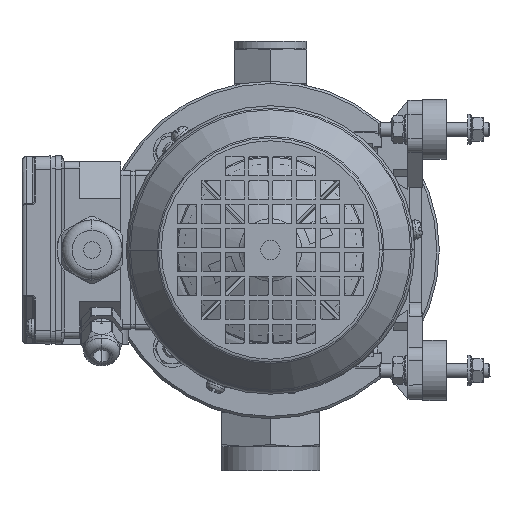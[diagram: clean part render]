
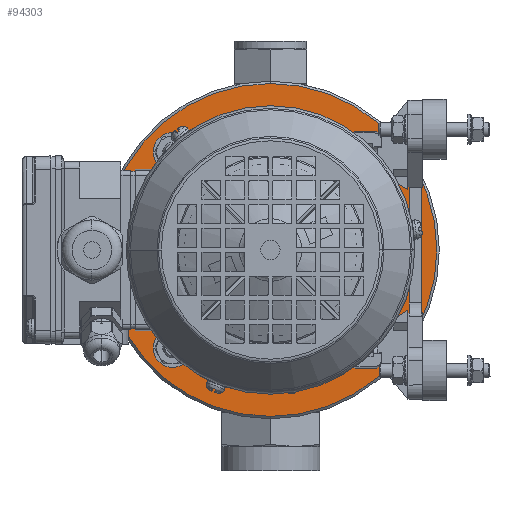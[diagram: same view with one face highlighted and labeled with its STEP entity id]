
A CAD part, front view. The second image highlights one B-rep face of the part: STEP entity #94303.
In plain terms, the highlighted planar face has unit normal (0, -1, 0).
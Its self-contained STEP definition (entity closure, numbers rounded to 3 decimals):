
#26587=CARTESIAN_POINT('',(-0.025,-299.6,0.));
#26588=DIRECTION('',(0.,1.,0.));
#26589=DIRECTION('',(0.,0.,1.));
#26590=AXIS2_PLACEMENT_3D('',#26587,#26588,#26589);
#26595=CARTESIAN_POINT('',(-0.025,-299.6,0.));
#26596=DIRECTION('',(0.,1.,0.));
#26597=DIRECTION('',(1.,0.,0.));
#26598=AXIS2_PLACEMENT_3D('',#26595,#26596,#26597);
#26603=CARTESIAN_POINT('',(-0.025,-299.6,0.));
#26604=DIRECTION('',(0.,1.,0.));
#26605=DIRECTION('',(0.,0.,-1.));
#26606=AXIS2_PLACEMENT_3D('',#26603,#26604,#26605);
#26611=CARTESIAN_POINT('',(-0.025,-299.6,0.));
#26612=DIRECTION('',(0.,1.,0.));
#26613=DIRECTION('',(-1.,0.,0.));
#26614=AXIS2_PLACEMENT_3D('',#26611,#26612,#26613);
#26619=CARTESIAN_POINT('',(-0.025,-299.6,0.));
#26620=DIRECTION('',(0.,-1.,0.));
#26621=DIRECTION('',(-1.,0.,0.));
#26622=AXIS2_PLACEMENT_3D('',#26619,#26620,#26621);
#26627=CARTESIAN_POINT('',(-0.025,-299.6,0.));
#26628=DIRECTION('',(0.,-1.,0.));
#26629=DIRECTION('',(0.,0.,-1.));
#26630=AXIS2_PLACEMENT_3D('',#26627,#26628,#26629);
#26635=CARTESIAN_POINT('',(-0.025,-299.6,0.));
#26636=DIRECTION('',(0.,-1.,0.));
#26637=DIRECTION('',(1.,0.,0.));
#26638=AXIS2_PLACEMENT_3D('',#26635,#26636,#26637);
#26643=CARTESIAN_POINT('',(-0.025,-299.6,0.));
#26644=DIRECTION('',(0.,-1.,0.));
#26645=DIRECTION('',(0.,0.,1.));
#26646=AXIS2_PLACEMENT_3D('',#26643,#26644,#26645);
#26651=CARTESIAN_POINT('',(40.659,-299.6,40.659));
#26652=DIRECTION('',(0.,-1.,0.));
#26653=DIRECTION('',(1.,0.,0.));
#26654=AXIS2_PLACEMENT_3D('',#26651,#26652,#26653);
#26659=CARTESIAN_POINT('',(40.659,-299.6,40.659));
#26660=DIRECTION('',(0.,-1.,0.));
#26661=DIRECTION('',(-1.,0.,0.));
#26662=AXIS2_PLACEMENT_3D('',#26659,#26660,#26661);
#26667=CARTESIAN_POINT('',(-40.659,-299.6,40.659));
#26668=DIRECTION('',(0.,-1.,0.));
#26669=DIRECTION('',(1.,0.,0.));
#26670=AXIS2_PLACEMENT_3D('',#26667,#26668,#26669);
#26675=CARTESIAN_POINT('',(-40.659,-299.6,40.659));
#26676=DIRECTION('',(0.,-1.,0.));
#26677=DIRECTION('',(-1.,0.,0.));
#26678=AXIS2_PLACEMENT_3D('',#26675,#26676,#26677);
#26683=CARTESIAN_POINT('',(-40.659,-299.6,-40.659));
#26684=DIRECTION('',(0.,-1.,0.));
#26685=DIRECTION('',(1.,0.,0.));
#26686=AXIS2_PLACEMENT_3D('',#26683,#26684,#26685);
#26691=CARTESIAN_POINT('',(-40.659,-299.6,-40.659));
#26692=DIRECTION('',(0.,-1.,0.));
#26693=DIRECTION('',(-1.,0.,0.));
#26694=AXIS2_PLACEMENT_3D('',#26691,#26692,#26693);
#26699=CARTESIAN_POINT('',(40.659,-299.6,-40.659));
#26700=DIRECTION('',(0.,-1.,0.));
#26701=DIRECTION('',(1.,0.,0.));
#26702=AXIS2_PLACEMENT_3D('',#26699,#26700,#26701);
#26707=CARTESIAN_POINT('',(40.659,-299.6,-40.659));
#26708=DIRECTION('',(0.,-1.,0.));
#26709=DIRECTION('',(-1.,0.,0.));
#26710=AXIS2_PLACEMENT_3D('',#26707,#26708,#26709);
#61756=CARTESIAN_POINT('',(-0.04,-299.6,48.5));
#61757=VERTEX_POINT('',#61756);
#61758=CARTESIAN_POINT('',(48.475,-299.6,0.015));
#61759=VERTEX_POINT('',#61758);
#61760=CARTESIAN_POINT('',(-0.01,-299.6,-48.5));
#61761=VERTEX_POINT('',#61760);
#61762=CARTESIAN_POINT('',(-48.525,-299.6,-0.015));
#61763=VERTEX_POINT('',#61762);
#61764=CARTESIAN_POINT('',(68.975,-299.6,0.021));
#61765=CARTESIAN_POINT('',(-0.004,-299.6,-69.));
#61766=VERTEX_POINT('',#61764);
#61767=VERTEX_POINT('',#61765);
#61768=CARTESIAN_POINT('',(-0.046,-299.6,69.));
#61769=VERTEX_POINT('',#61768);
#61770=CARTESIAN_POINT('',(-69.025,-299.6,-0.021));
#61771=VERTEX_POINT('',#61770);
#61772=CARTESIAN_POINT('',(48.659,-299.6,40.659));
#61773=CARTESIAN_POINT('',(32.659,-299.6,40.659));
#61774=VERTEX_POINT('',#61772);
#61775=VERTEX_POINT('',#61773);
#61776=CARTESIAN_POINT('',(-32.659,-299.6,40.659));
#61777=CARTESIAN_POINT('',(-48.659,-299.6,40.659));
#61778=VERTEX_POINT('',#61776);
#61779=VERTEX_POINT('',#61777);
#61780=CARTESIAN_POINT('',(-32.659,-299.6,-40.659));
#61781=CARTESIAN_POINT('',(-48.659,-299.6,-40.659));
#61782=VERTEX_POINT('',#61780);
#61783=VERTEX_POINT('',#61781);
#61784=CARTESIAN_POINT('',(48.659,-299.6,-40.659));
#61785=CARTESIAN_POINT('',(32.659,-299.6,-40.659));
#61786=VERTEX_POINT('',#61784);
#61787=VERTEX_POINT('',#61785);
#94258=CARTESIAN_POINT('',(-0.025,-299.6,0.));
#94259=DIRECTION('',(0.,1.,0.));
#94260=DIRECTION('',(0.,0.,1.));
#94261=AXIS2_PLACEMENT_3D('',#94258,#94259,#94260);
#94262=PLANE('',#94261);
#94264=ORIENTED_EDGE('',*,*,#94263,.T.);
#94266=ORIENTED_EDGE('',*,*,#94265,.T.);
#94268=ORIENTED_EDGE('',*,*,#94267,.T.);
#94270=ORIENTED_EDGE('',*,*,#94269,.T.);
#94271=EDGE_LOOP('',(#94264,#94266,#94268,#94270));
#94272=FACE_OUTER_BOUND('',#94271,.F.);
#94273=ORIENTED_EDGE('',*,*,#94243,.T.);
#94274=ORIENTED_EDGE('',*,*,#94220,.T.);
#94275=ORIENTED_EDGE('',*,*,#94218,.T.);
#94276=ORIENTED_EDGE('',*,*,#94245,.T.);
#94277=EDGE_LOOP('',(#94273,#94274,#94275,#94276));
#94278=FACE_BOUND('',#94277,.F.);
#94280=ORIENTED_EDGE('',*,*,#94279,.T.);
#94282=ORIENTED_EDGE('',*,*,#94281,.T.);
#94283=EDGE_LOOP('',(#94280,#94282));
#94284=FACE_BOUND('',#94283,.F.);
#94286=ORIENTED_EDGE('',*,*,#94285,.T.);
#94288=ORIENTED_EDGE('',*,*,#94287,.T.);
#94289=EDGE_LOOP('',(#94286,#94288));
#94290=FACE_BOUND('',#94289,.F.);
#94292=ORIENTED_EDGE('',*,*,#94291,.T.);
#94294=ORIENTED_EDGE('',*,*,#94293,.T.);
#94295=EDGE_LOOP('',(#94292,#94294));
#94296=FACE_BOUND('',#94295,.F.);
#94298=ORIENTED_EDGE('',*,*,#94297,.T.);
#94300=ORIENTED_EDGE('',*,*,#94299,.T.);
#94301=EDGE_LOOP('',(#94298,#94300));
#94302=FACE_BOUND('',#94301,.F.);
#26591=CIRCLE('',#26590,69.);
#26599=CIRCLE('',#26598,69.);
#26607=CIRCLE('',#26606,69.);
#26615=CIRCLE('',#26614,69.);
#26623=CIRCLE('',#26622,48.5);
#26631=CIRCLE('',#26630,48.5);
#26639=CIRCLE('',#26638,48.5);
#26647=CIRCLE('',#26646,48.5);
#26655=CIRCLE('',#26654,8.);
#26663=CIRCLE('',#26662,8.);
#26671=CIRCLE('',#26670,8.);
#26679=CIRCLE('',#26678,8.);
#26687=CIRCLE('',#26686,8.);
#26695=CIRCLE('',#26694,8.);
#26703=CIRCLE('',#26702,8.);
#26711=CIRCLE('',#26710,8.);
#94218=EDGE_CURVE('',#61759,#61757,#26639,.T.);
#94220=EDGE_CURVE('',#61761,#61759,#26631,.T.);
#94243=EDGE_CURVE('',#61763,#61761,#26623,.T.);
#94245=EDGE_CURVE('',#61757,#61763,#26647,.T.);
#94263=EDGE_CURVE('',#61769,#61766,#26591,.T.);
#94265=EDGE_CURVE('',#61766,#61767,#26599,.T.);
#94267=EDGE_CURVE('',#61767,#61771,#26607,.T.);
#94269=EDGE_CURVE('',#61771,#61769,#26615,.T.);
#94279=EDGE_CURVE('',#61774,#61775,#26655,.T.);
#94281=EDGE_CURVE('',#61775,#61774,#26663,.T.);
#94285=EDGE_CURVE('',#61778,#61779,#26671,.T.);
#94287=EDGE_CURVE('',#61779,#61778,#26679,.T.);
#94291=EDGE_CURVE('',#61782,#61783,#26687,.T.);
#94293=EDGE_CURVE('',#61783,#61782,#26695,.T.);
#94297=EDGE_CURVE('',#61786,#61787,#26703,.T.);
#94299=EDGE_CURVE('',#61787,#61786,#26711,.T.);
#94303=ADVANCED_FACE('',(#94272,#94278,#94284,#94290,#94296,#94302),#94262,.F.);
